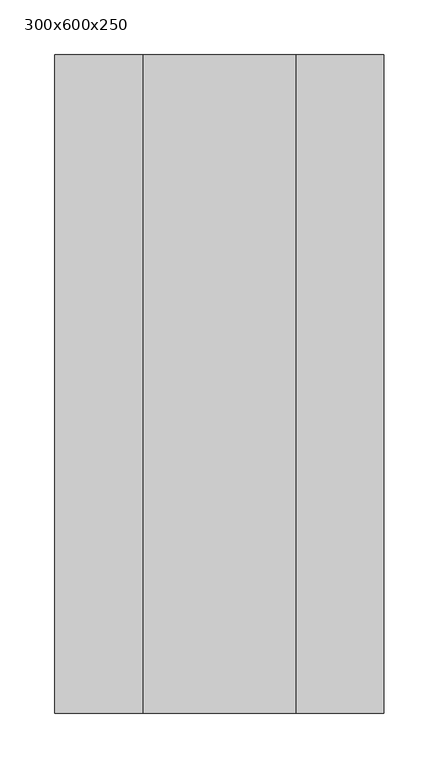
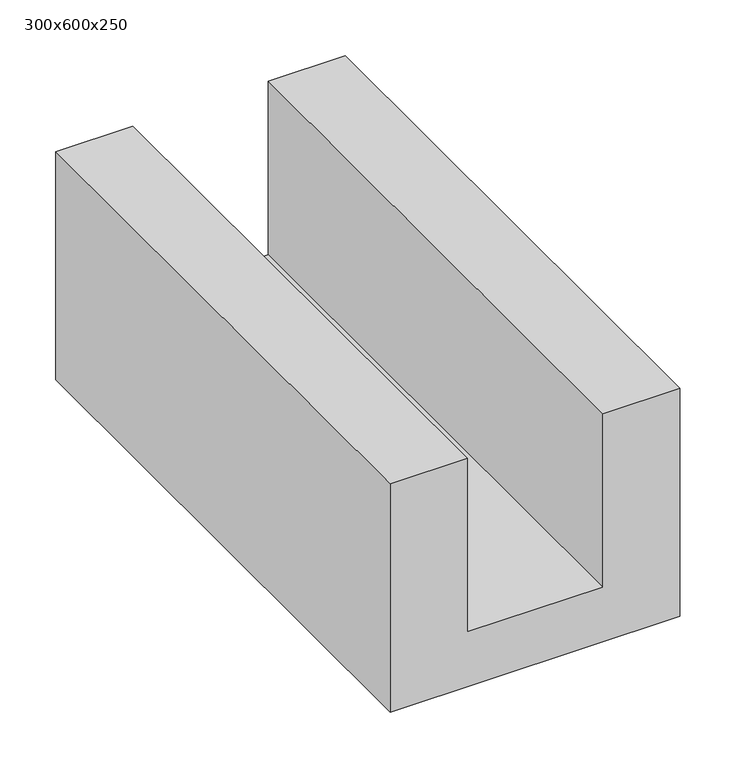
"""IFC4 building model written with IfcOpenShell, lengths in millimetres: plate geometry, GASBETON Evolution Canalette : 300x600x250."""

import ifcopenshell
import ifcopenshell.guid

model = None  # the IFC model being written
_history = None  # IfcOwnerHistory: only IFC2X3 demands one
_inside = {}  # id of a spatial element -> (the spatial element, [elements in it])
_under = {}  # id of a project, library or spatial element -> (it, [spatial elements below it])
_declared = {}  # id of a project -> (the project, [libraries it declares])
_typed = {}  # id of a type object -> (the type object, [elements of that type])
_made_of = {}  # id of a material, layer set ... -> (it, [elements and type objects made of it])


def new_model(schema):
    """Start an empty IFC model of exactly this schema.

    Asked for "IFC4X3", IfcOpenShell would pick the latest addendum, in which some entities
    have other attributes; the version numbers below select the first issue.
    IFC2X3 requires an IfcOwnerHistory on every rooted entity: one is made here for all.
    """
    global model, _history
    if schema == "IFC4X3":
        model = ifcopenshell.file(schema_version=(4, 3, 0, 0))
    else:
        model = ifcopenshell.file(schema=schema)
    _inside.clear()
    _under.clear()
    _declared.clear()
    _typed.clear()
    _made_of.clear()
    _history = None
    if model.schema == "IFC2X3":
        org = make("IfcOrganization", Name="unknown")
        user = make(
            "IfcPersonAndOrganization",
            ThePerson=make("IfcPerson", FamilyName="unknown"),
            TheOrganization=org,
        )
        app = make(
            "IfcApplication",
            ApplicationDeveloper=org,
            Version="unknown",
            ApplicationFullName="unknown",
            ApplicationIdentifier="unknown",
        )
        _history = make(
            "IfcOwnerHistory",
            OwningUser=user,
            OwningApplication=app,
            ChangeAction="ADDED",
            CreationDate=0,
        )
    return model


def make(cls, **values):
    """One entity of the class cls with the attributes given. An attribute that is None is left unset."""
    return model.create_entity(
        cls, **{name: value for name, value in values.items() if value is not None}
    )


def rooted(cls, **values):
    """An entity with a GlobalId (a new one), such as an element, a storey or a relation."""
    return make(cls, GlobalId=ifcopenshell.guid.new(), OwnerHistory=_history, **values)


def si_unit(unit_type, name, prefix=None):
    """IfcSIUnit, for example si_unit("LENGTHUNIT", "METRE", prefix="MILLI")."""
    return make("IfcSIUnit", UnitType=unit_type, Prefix=prefix, Name=name)


def assignment(units):
    """IfcUnitAssignment: the units of a project."""
    return None if units is None else make("IfcUnitAssignment", Units=units)


def point(xyz):
    """IfcCartesianPoint."""
    return None if xyz is None else make("IfcCartesianPoint", Coordinates=xyz)


def direction(xyz):
    """IfcDirection."""
    return None if xyz is None else make("IfcDirection", DirectionRatios=xyz)


def frame(location, z_axis=None, x_axis=None):
    """IfcAxis2Placement3D, a coordinate frame: its origin and axes. An axis left out is left unset."""
    return make(
        "IfcAxis2Placement3D",
        Location=point(location),
        Axis=direction(z_axis),
        RefDirection=direction(x_axis),
    )


def origin():
    """The frame at (0, 0, 0) with its axes left unset."""
    return frame((0.0, 0.0, 0.0))


def place(relative_to, where):
    """IfcLocalPlacement: puts the frame where relative to a parent placement (None: the world)."""
    return make(
        "IfcLocalPlacement", PlacementRelTo=relative_to, RelativePlacement=where
    )


def context(
    kind, dimensions, precision=None, world=None, true_north=None, identifier=None
):
    """IfcGeometricRepresentationContext, for example the 3D "Model" context."""
    return make(
        "IfcGeometricRepresentationContext",
        ContextIdentifier=identifier,
        ContextType=kind,
        CoordinateSpaceDimension=dimensions,
        Precision=precision,
        WorldCoordinateSystem=world,
        TrueNorth=true_north,
    )


def project(units=None, contexts=None):
    """IfcProject with its units and contexts."""
    return rooted(
        "IfcProject",
        Name="project",
        RepresentationContexts=contexts,
        UnitsInContext=assignment(units),
    )


def spatial(cls, under=None, at=None, **own):
    """A site, building, storey or space (cls), placed at a placement, below another one or the project."""
    s = rooted(cls, ObjectPlacement=at, **own)
    if under is not None:
        _under.setdefault(under.id(), (under, []))[1].append(s)
    return s


def polyline(points):
    """IfcPolyline through the points."""
    return make("IfcPolyline", Points=[point(p) for p in points])


def outline(outer, holes=None, kind="AREA"):
    """IfcArbitraryClosedProfileDef: a profile drawn as a closed curve; with holes, ...WithVoids."""
    if holes is None:
        return make("IfcArbitraryClosedProfileDef", ProfileType=kind, OuterCurve=outer)
    return make(
        "IfcArbitraryProfileDefWithVoids",
        ProfileType=kind,
        OuterCurve=outer,
        InnerCurves=holes,
    )


def extrude(swept, where, along, depth):
    """IfcExtrudedAreaSolid: the profile swept, set in the frame where, extruded along a direction by depth."""
    return make(
        "IfcExtrudedAreaSolid",
        SweptArea=swept,
        Position=where,
        ExtrudedDirection=direction(along),
        Depth=depth,
    )


def shape(context_of_items, identifier, shape_type, items):
    """IfcShapeRepresentation: the items that make up one representation, for example the "Body"."""
    return make(
        "IfcShapeRepresentation",
        ContextOfItems=context_of_items,
        RepresentationIdentifier=identifier,
        RepresentationType=shape_type,
        Items=items,
    )


def source(mapping_origin, context_of_items, identifier, shape_type, items):
    """IfcRepresentationMap: a shape defined once, which mapped items show again and again."""
    return make(
        "IfcRepresentationMap",
        MappingOrigin=mapping_origin,
        MappedRepresentation=shape(context_of_items, identifier, shape_type, items),
    )


def transform(
    local_origin,
    x_axis=None,
    y_axis=None,
    z_axis=None,
    scale=None,
    scale2=None,
    scale3=None,
    uniform=True,
):
    """IfcCartesianTransformationOperator3D, or its non-uniform kind. x_axis, y_axis, z_axis: its Axis1, 2, 3."""
    if uniform:
        return make(
            "IfcCartesianTransformationOperator3D",
            Axis1=direction(x_axis),
            Axis2=direction(y_axis),
            LocalOrigin=point(local_origin),
            Scale=scale,
            Axis3=direction(z_axis),
        )
    return make(
        "IfcCartesianTransformationOperator3DnonUniform",
        Axis1=direction(x_axis),
        Axis2=direction(y_axis),
        LocalOrigin=point(local_origin),
        Scale=scale,
        Axis3=direction(z_axis),
        Scale2=scale2,
        Scale3=scale3,
    )


def mapped(mapping_source, mapping_target):
    """IfcMappedItem: shows the shape of a source again, moved by a transform."""
    return make(
        "IfcMappedItem", MappingSource=mapping_source, MappingTarget=mapping_target
    )


def made_of(thing, what):
    """Note that an element or type object is made of a material, layer set ...; save() writes the relation."""
    if what is not None:
        _made_of.setdefault(what.id(), (what, []))[1].append(thing)
    return thing


def element(
    cls,
    number,
    at=None,
    inside=None,
    cuts=None,
    type_object=None,
    material=None,
    context=None,
    identifier="Body",
    shape_type=None,
    held_by="IfcProductDefinitionShape",
    body=None,
    shapes=None,
    **own,
):
    """One element of the class cls, such as IfcWall. Its Tag is "e" and its number.

    at: its placement. inside: the storey or other place that contains it. cuts: it is an
    opening in that element (IfcRelVoidsElement). A single representation is given by context,
    identifier, shape_type and body (its items); several are given by shapes. held_by: the class
    of the entity that holds the representations. save() writes the other relations.
    """
    e = rooted(cls, Tag="e%d" % number, ObjectPlacement=at, **own)
    if body is not None:
        shapes = [shape(context, identifier, shape_type, body)]
    if shapes is not None:
        e.Representation = make(held_by, Representations=shapes)
    if inside is not None:
        _inside.setdefault(inside.id(), (inside, []))[1].append(e)
    if cuts is not None:
        rooted(
            "IfcRelVoidsElement", RelatingBuildingElement=cuts, RelatedOpeningElement=e
        )
    if type_object is not None:
        _typed.setdefault(type_object.id(), (type_object, []))[1].append(e)
    return made_of(e, material)


def aggregate(whole, parts):
    """IfcRelAggregates: a whole, such as a stair, and the parts it consists of."""
    return rooted("IfcRelAggregates", RelatingObject=whole, RelatedObjects=parts)


def save(model, path):
    """Write the relations noted so far, then the file.

    IfcRelAggregates (storeys below a building ...), IfcRelContainedInSpatialStructure (elements
    in a storey), IfcRelDefinesByType, IfcRelAssociatesMaterial and IfcRelDeclares: one each for
    every whole, place, type object, material and project.
    """
    for whole, parts in _under.values():
        aggregate(whole, parts)
    for where, things in _inside.values():
        rooted(
            "IfcRelContainedInSpatialStructure",
            RelatedElements=things,
            RelatingStructure=where,
        )
    for kind, things in _typed.values():
        rooted("IfcRelDefinesByType", RelatedObjects=things, RelatingType=kind)
    for what, things in _made_of.values():
        rooted("IfcRelAssociatesMaterial", RelatedObjects=things, RelatingMaterial=what)
    for by, libraries in _declared.values():
        rooted("IfcRelDeclares", RelatingContext=by, RelatedDefinitions=libraries)
    model.write(path)


def plate_300x600x250_2d3f658c(model_context):
    return source(origin(), model_context, "Body", "SweptSolid", [
        extrude(outline(polyline([(0.0, -150.0), (0.0, 150.0), (250.0, 150.0), (250.0, 70.0), (60.0, 70.0), (60.0, -70.0), (250.0, -70.0), (250.0, -150.0), (0.0, -150.0)])), frame((0.0, -300.0, 0.0), z_axis=(0.0, 1.0, 0.0), x_axis=(0.0, 0.0, 1.0)), (0.0, 0.0, 1.0), 600.0),
    ])


if __name__ == "__main__":
    model = new_model("IFC4")
    model_context = context("Model", 3, world=origin())
    ifc_project = project(units=[si_unit("LENGTHUNIT", "METRE", prefix="MILLI")], contexts=[model_context])
    site = spatial("IfcSite", under=ifc_project)
    building = spatial("IfcBuilding", under=site)
    placement = place(None, origin())
    plate_300x600x250_shape = plate_300x600x250_2d3f658c(model_context)
    element("IfcPlate", 1, ObjectType="GASBETON Evolution Canalette : 300x600x250", at=placement, inside=building, context=model_context, shape_type="MappedRepresentation", body=[
        mapped(plate_300x600x250_shape, transform((0.0, 0.0, 0.0), x_axis=(1.0, 0.0, 0.0), y_axis=(0.0, 1.0, 0.0), z_axis=(0.0, 0.0, 1.0))),
    ])
    save(model, "model.ifc")
